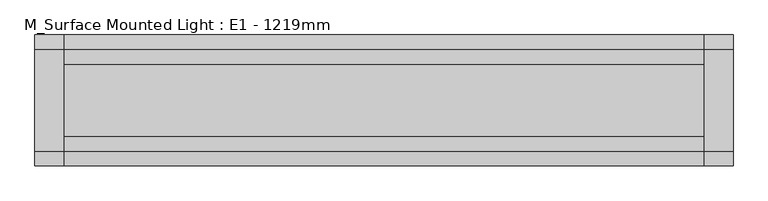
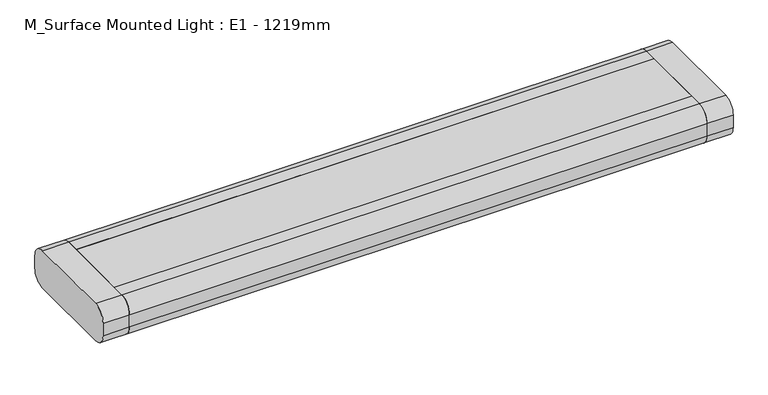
"""IFC4 building model written with IfcOpenShell, lengths in millimetres: light fixture geometry, M_Surface Mounted Light : E1 - 1219mm."""

from ifc_helpers import new_model, si_unit, point, frame, frame_2d, origin, origin_with_axes, place, context, project, spatial, polyline, circle_curve, trimmed, segment, composite_curve, outline, extrude, source, transform, mapped, element, save


def m_surface_mounted_light_e1_1219mm_bf546b28(model_context):
    return source(origin(), model_context, "Body", "SweptSolid", [
        extrude(outline(composite_curve([segment(polyline([(114.3, 74.6), (114.3, 49.2)]), True, "CONTINUOUS"), segment(trimmed(circle_curve(frame_2d((88.9, 49.2)), 25.4), [point((114.3, 49.2))], [point((88.9, 23.8))], False, "CARTESIAN"), True, "CONTINUOUS"), segment(polyline([(88.9, 23.8), (-88.9, 23.8)]), True, "CONTINUOUS"), segment(trimmed(circle_curve(frame_2d((-88.9, 49.2)), 25.4), [point((-88.9, 23.8))], [point((-114.3, 49.2))], False, "CARTESIAN"), True, "CONTINUOUS"), segment(polyline([(-114.3, 49.2), (-114.3, 74.6)]), True, "CONTINUOUS"), segment(trimmed(circle_curve(frame_2d((-88.9, 74.6)), 25.4), [point((-114.3, 74.6))], [point((-88.9, 100.0))], False, "CARTESIAN"), True, "CONTINUOUS"), segment(polyline([(-88.9, 100.0), (-63.5, 100.0), (-63.5, 74.6), (63.5, 74.6), (63.5, 100.0), (88.9, 100.0)]), True, "CONTINUOUS"), segment(trimmed(circle_curve(frame_2d((88.9, 74.6)), 25.4), [point((88.9, 100.0))], [point((114.3, 74.6))], False, "CARTESIAN"), True, "CONTINUOUS")], self_intersect=False)), frame((-558.7, 0.0, 0.0), z_axis=(1.0, 0.0, 0.0), x_axis=(0.0, 1.0, 0.0)), (0.0, 0.0, 1.0), 1117.4),
        extrude(outline(polyline([(558.7, 63.5), (558.7, -63.5), (-558.7, -63.5), (-558.7, 63.5), (558.7, 63.5)])), frame((0.0, 0.0, 87.3), z_axis=(0.0, 0.0, 1.0), x_axis=(1.0, 0.0, 0.0)), (0.0, 0.0, 1.0), 12.7),
        extrude(outline(composite_curve([segment(trimmed(circle_curve(frame_2d((533.3, 0.0)), 25.4), [point((507.9, 0.0))], [point((558.7, 0.0))], False, "CARTESIAN"), True, "CONTINUOUS"), segment(trimmed(circle_curve(frame_2d((533.3, 0.0)), 25.4), [point((558.7, 0.0))], [point((507.9, 0.0))], False, "CARTESIAN"), True, "CONTINUOUS")], self_intersect=False)), origin_with_axes(), (0.0, 0.0, 1.0), 12.7),
        extrude(outline(composite_curve([segment(trimmed(circle_curve(frame_2d((-533.3, 0.0)), 25.4), [point((-558.7, 0.0))], [point((-507.9, 0.0))], False, "CARTESIAN"), True, "CONTINUOUS"), segment(trimmed(circle_curve(frame_2d((-533.3, 0.0)), 25.4), [point((-507.9, 0.0))], [point((-558.7, 0.0))], False, "CARTESIAN"), True, "CONTINUOUS")], self_intersect=False)), origin_with_axes(), (0.0, 0.0, 1.0), 12.7),
        extrude(outline(composite_curve([segment(trimmed(circle_curve(frame_2d((-88.9, 74.6)), 25.4), [point((-114.3, 74.6))], [point((-88.9, 100.0))], False, "CARTESIAN"), True, "CONTINUOUS"), segment(polyline([(-88.9, 100.0), (88.9, 100.0)]), True, "CONTINUOUS"), segment(trimmed(circle_curve(frame_2d((88.9, 74.6)), 25.4), [point((88.9, 100.0))], [point((114.3, 74.6))], False, "CARTESIAN"), True, "CONTINUOUS"), segment(polyline([(114.3, 74.6), (114.3, 49.2)]), True, "CONTINUOUS"), segment(trimmed(circle_curve(frame_2d((88.9, 49.2)), 25.4), [point((114.3, 49.2))], [point((88.9, 23.8))], False, "CARTESIAN"), True, "CONTINUOUS"), segment(polyline([(88.9, 23.8), (-88.9, 23.8)]), True, "CONTINUOUS"), segment(trimmed(circle_curve(frame_2d((-88.9, 49.2)), 25.4), [point((-88.9, 23.8))], [point((-114.3, 49.2))], False, "CARTESIAN"), True, "CONTINUOUS"), segment(polyline([(-114.3, 49.2), (-114.3, 74.6)]), True, "CONTINUOUS")], self_intersect=False)), frame((558.7, 0.0, 0.0), z_axis=(1.0, 0.0, 0.0), x_axis=(0.0, 1.0, 0.0)), (0.0, 0.0, 1.0), 50.8),
        extrude(outline(composite_curve([segment(polyline([(114.3, 74.6), (114.3, 49.2)]), True, "CONTINUOUS"), segment(trimmed(circle_curve(frame_2d((88.9, 49.2)), 25.4), [point((114.3, 49.2))], [point((88.9, 23.8))], False, "CARTESIAN"), True, "CONTINUOUS"), segment(polyline([(88.9, 23.8), (-88.9, 23.8)]), True, "CONTINUOUS"), segment(trimmed(circle_curve(frame_2d((-88.9, 49.2)), 25.4), [point((-88.9, 23.8))], [point((-114.3, 49.2))], False, "CARTESIAN"), True, "CONTINUOUS"), segment(polyline([(-114.3, 49.2), (-114.3, 74.6)]), True, "CONTINUOUS"), segment(trimmed(circle_curve(frame_2d((-88.9, 74.6)), 25.4), [point((-114.3, 74.6))], [point((-88.9, 100.0))], False, "CARTESIAN"), True, "CONTINUOUS"), segment(polyline([(-88.9, 100.0), (88.9, 100.0)]), True, "CONTINUOUS"), segment(trimmed(circle_curve(frame_2d((88.9, 74.6)), 25.4), [point((88.9, 100.0))], [point((114.3, 74.6))], False, "CARTESIAN"), True, "CONTINUOUS")], self_intersect=False)), frame((-609.5, 0.0, 0.0), z_axis=(1.0, 0.0, 0.0), x_axis=(0.0, 1.0, 0.0)), (0.0, 0.0, 1.0), 50.8),
        extrude(outline(composite_curve([segment(trimmed(circle_curve(frame_2d((533.3, 0.0)), 3.1340604), [point((530.1659396, 0.0))], [point((536.4340604, 0.0))], False, "CARTESIAN"), True, "CONTINUOUS"), segment(trimmed(circle_curve(frame_2d((533.3, 0.0)), 3.1340604), [point((536.4340604, 0.0))], [point((530.1659396, 0.0))], False, "CARTESIAN"), True, "CONTINUOUS")], self_intersect=False)), origin_with_axes(), (0.0, 0.0, 1.0), 23.8),
        extrude(outline(composite_curve([segment(trimmed(circle_curve(frame_2d((-533.3, 0.0)), 3.175), [point((-536.475, 0.0))], [point((-530.125, 0.0))], False, "CARTESIAN"), True, "CONTINUOUS"), segment(trimmed(circle_curve(frame_2d((-533.3, 0.0)), 3.175), [point((-530.125, 0.0))], [point((-536.475, 0.0))], False, "CARTESIAN"), True, "CONTINUOUS")], self_intersect=False)), origin_with_axes(), (0.0, 0.0, 1.0), 23.8),
    ])


if __name__ == "__main__":
    model = new_model("IFC4")
    model_context = context("Model", 3, world=origin())
    ifc_project = project(units=[si_unit("LENGTHUNIT", "METRE", prefix="MILLI")], contexts=[model_context])
    site = spatial("IfcSite", under=ifc_project)
    building = spatial("IfcBuilding", under=site)
    placement = place(None, origin())
    m_surface_mounted_light_e1_1219mm_shape = m_surface_mounted_light_e1_1219mm_bf546b28(model_context)
    element("IfcLightFixture", 1, ObjectType="M_Surface Mounted Light : E1 - 1219mm", at=placement, inside=building, context=model_context, shape_type="MappedRepresentation", body=[
        mapped(m_surface_mounted_light_e1_1219mm_shape, transform((0.0, 0.0, 0.0), x_axis=(1.0, 0.0, 0.0), y_axis=(0.0, 1.0, 0.0), z_axis=(0.0, 0.0, 1.0))),
    ])
    save(model, "model.ifc")
